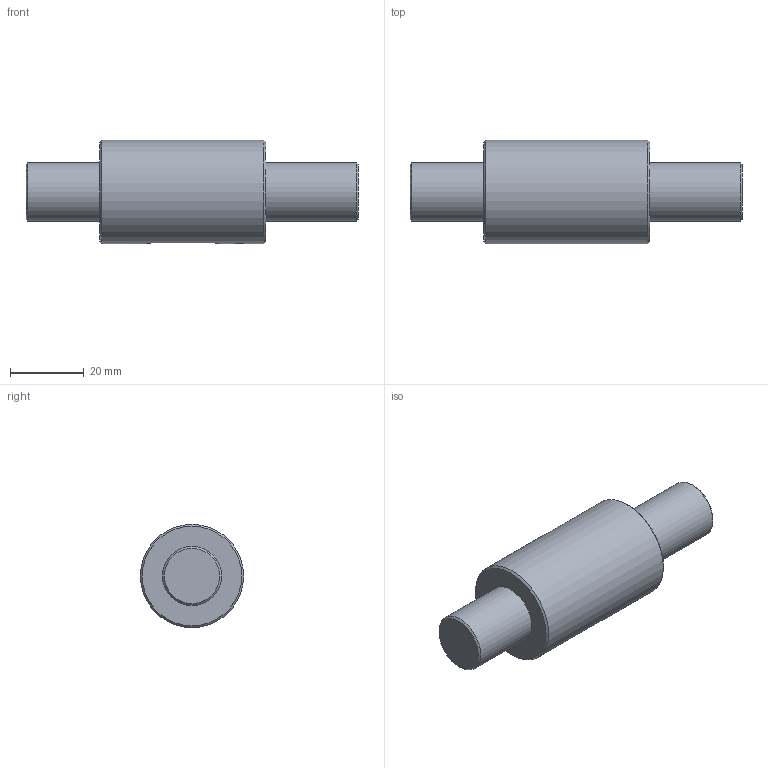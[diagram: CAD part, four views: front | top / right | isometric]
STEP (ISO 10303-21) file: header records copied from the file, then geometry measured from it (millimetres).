
FILE_DESCRIPTION(/* description */ (''),/* implementation_level */ '2;1');
FILE_NAME(/* name */ 'SCNH1610.stp',/* time_stamp */ '2016-07-18T11:57:57+08:00',/* author */ (''),/* organization */ (''),/* preprocessor_version */ 'ST-DEVELOPER v11',/* originating_system */ 'SIEMENS UGS NX 6.0',/* authorisation */ '');
FILE_SCHEMA (('CONFIG_CONTROL_DESIGN'));
Length unit declared in the file: millimetre
Products named in the file (1): didi6F95hphf
Bounding box: 90 x 28 x 28 mm (x, y, z)
Volume: 36403.1 mm3; surface area: 12064.3 mm2
Topology: 2 solids, 2 shells, 18 faces, 40 edges, 25 vertices
Faces by surface type: plane 7, cylinder 5, cone 4, extrusion 2
Full cylindrical faces by diameter (mm): 16 x2, 28 x1
Entity records: 688 total; most frequent: CARTESIAN_POINT 253, DIRECTION 70, ORIENTED_EDGE 56, EDGE_LOOP 30, AXIS2_PLACEMENT_3D 29, EDGE_CURVE 28, VERTEX_POINT 22, FACE_BOUND 21
